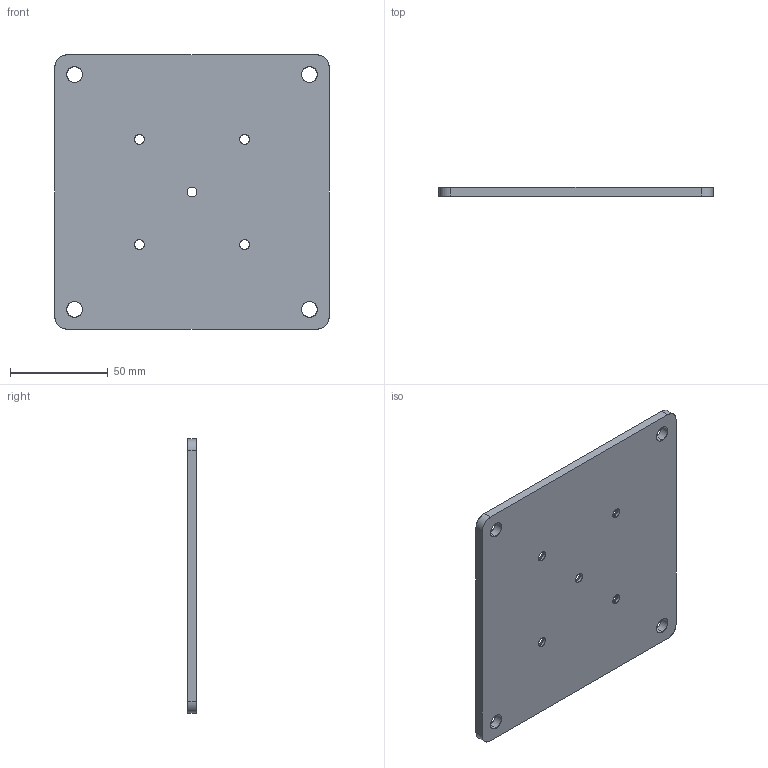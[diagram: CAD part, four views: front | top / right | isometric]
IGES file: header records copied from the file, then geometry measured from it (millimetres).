
Start section: SolidWorks IGES file using analytic representation for surfaces
Bounding box: 140 x 4.5 x 140 mm (x, y, z)
Surface area: 41739.7 mm2 (no closed solid volume)
Topology: 0 solids, 0 shells, 38 faces, 792 edges, 792 vertices
Faces by surface type: revolution 32, bspline 6
